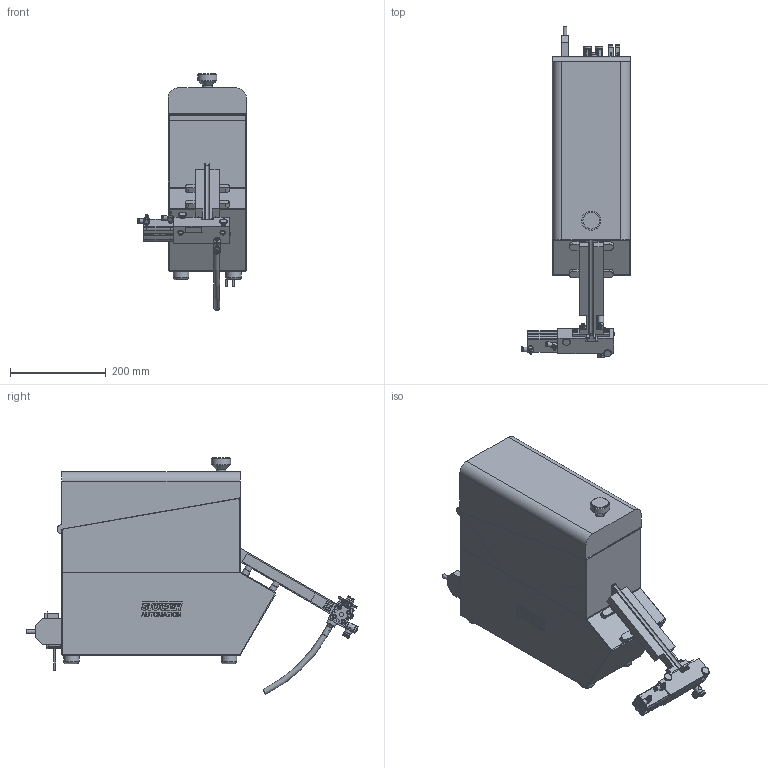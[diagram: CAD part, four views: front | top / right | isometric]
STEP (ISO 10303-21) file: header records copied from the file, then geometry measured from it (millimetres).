
FILE_DESCRIPTION(/* description */ ('© Copyright 2019 – Urheberrechtshinweis Diese CAD-Daten sind urheberrechtlich geschützt. Das Urheberrecht liegt, soweit nicht ausdrücklich anders gekennzeichnet, bei Stöger Automation GmbH. Bitte fragen Sie uns, falls Sie die CAD-Daten vervielfältigen oder','CAx-IF Rec.Pracs.---Representation and Presentation of Product Manufacturing Information (PMI)---4.0---2014-10-13'),/* implementation_level */ '2;1');
FILE_NAME(/* name */ 'H:\00_0 Arbeiten für Marketing\581420\3D_Step_file_SG2H.stp',/* time_stamp */ '2020-09-01T09:37:10+02:00',/* author */ ('Stöger Automation GmbH'),/* organization */ ('Stöger Automation GmbH'),/* preprocessor_version */ 'ST-DEVELOPER v17',/* originating_system */ 'Autodesk Inventor 2018',/* authorisation */ '');
FILE_SCHEMA (('AP242_MANAGED_MODEL_BASED_3D_ENGINEERING_MIM_LF { 1 0 10303 442 1 1 4 }'));
Products named in the file (1): 581420
Bounding box: 226.9 x 694.6 x 495.73 mm (x, y, z)
Volume: 2470207.5 mm3; surface area: 1425254.2 mm2
Topology: 6 solids, 16 shells, 1947 faces, 5246 edges, 3452 vertices
Faces by surface type: plane 1106, cylinder 614, cone 122, bspline 58, torus 33, sphere 14
Full cylindrical faces by diameter (mm): 2 x6, 2.5 x6, 3 x2, 3.242 x5, 3.5 x4, 3.8 x4, 3.99 x4, 4 x12, 4.019 x4, 4.134 x14, 4.2 x10, 4.3 x6, 4.864 x2, 5 x8, 5.7 x2, 6 x4, 6.1 x2, 6.917 x2, 7 x11, 7.8 x6, 8 x5, 8.5 x4, 8.566 x1, 8.807 x1, 9 x18, 9.7 x1, 9.728 x2, 10 x4, 10.5 x2, 10.764 x1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
Entity records: 67556 total; most frequent: CARTESIAN_POINT 15473, DIRECTION 10471, ORIENTED_EDGE 10464, EDGE_CURVE 5232, AXIS2_PLACEMENT_3D 3683, VERTEX_POINT 3453, LINE 3105, VECTOR 3105
